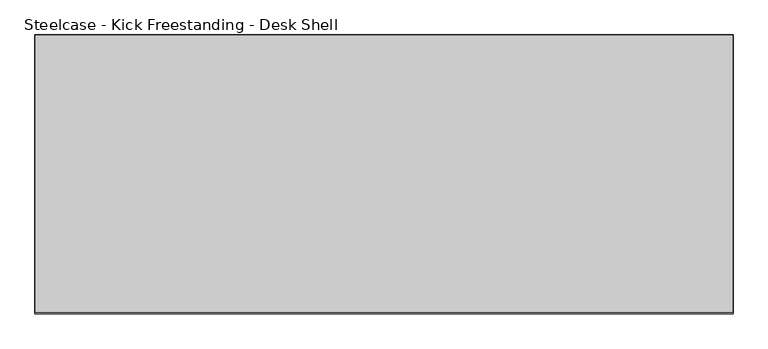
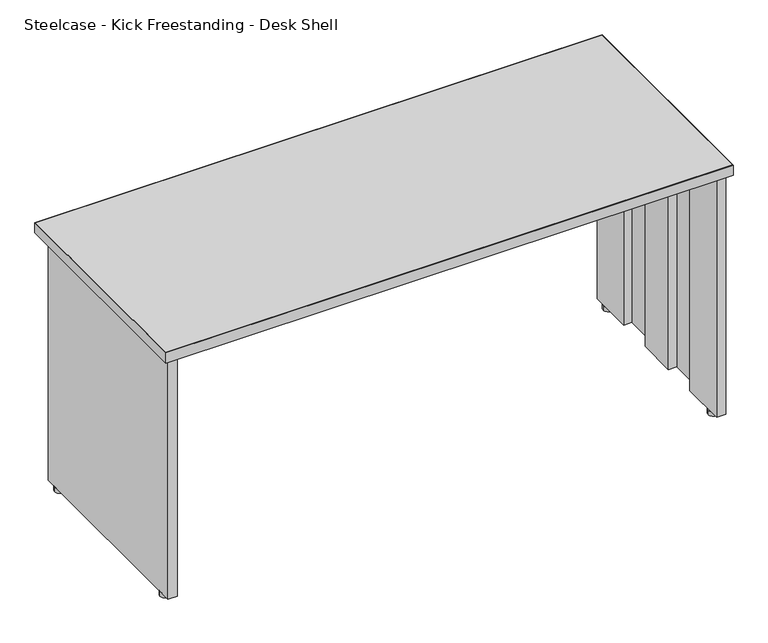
"""IFC4 building model written with IfcOpenShell, lengths in millimetres: furniture geometry, Steelcase - Kick Freestanding - Desk Shell : 24D x 60W."""

from ifc_helpers import new_model, si_unit, point, frame, frame_2d, origin, origin_with_axes, place, context, project, spatial, polyline, circle_curve, trimmed, segment, composite_curve, outline, extrude, source, transform, mapped, element, save


def steelcase_kick_freestanding_desk_shell_5ce8daeb(model_context):
    return source(origin(), model_context, "Body", "SweptSolid", [
        extrude(outline(composite_curve([segment(trimmed(circle_curve(frame_2d((665.1357759, -1004.2087877)), 13.97), [point((651.1657759, -1004.2087877))], [point((679.1057759, -1004.2087877))], False, "CARTESIAN"), True, "CONTINUOUS"), segment(trimmed(circle_curve(frame_2d((665.1357759, -1004.2087877)), 13.97), [point((679.1057759, -1004.2087877))], [point((651.1657759, -1004.2087877))], False, "CARTESIAN"), True, "CONTINUOUS")], self_intersect=False)), origin_with_axes(), (0.0, 0.0, 1.0), 12.446),
        extrude(outline(composite_curve([segment(trimmed(circle_curve(frame_2d((665.1357759, -1493.6441481)), 13.97), [point((651.1657759, -1493.6441481))], [point((679.1057759, -1493.6441481))], False, "CARTESIAN"), True, "CONTINUOUS"), segment(trimmed(circle_curve(frame_2d((665.1357759, -1493.6441481)), 13.97), [point((679.1057759, -1493.6441481))], [point((651.1657759, -1493.6441481))], False, "CARTESIAN"), True, "CONTINUOUS")], self_intersect=False)), origin_with_axes(), (0.0, 0.0, 1.0), 12.446),
        extrude(outline(polyline([(2126.6738425, -1096.0529604), (2126.6738425, -972.7867604), (2151.1594421, -972.7867604), (2151.1594421, -1528.538741), (2126.6738421, -1528.538741), (2126.6738421, -1404.2311348), (2149.1020425, -1404.2311348), (2149.1020425, -1304.5107682), (2126.6738421, -1304.5107682), (2126.6738421, -1195.7733647), (2149.1020425, -1195.7733647), (2149.1020425, -1096.0529604), (2126.6738425, -1096.0529604)])), frame((0.0, 0.0, 12.446), z_axis=(0.0, 0.0, 1.0), x_axis=(1.0, 0.0, 0.0)), (0.0, 0.0, 1.0), 682.498),
        extrude(outline(polyline([(677.0450425, -1096.0529604), (654.6168425, -1096.0529604), (654.6168425, -1195.7733647), (677.0450429, -1195.7733647), (677.0450429, -1304.5107682), (654.6168425, -1304.5107682), (654.6168425, -1404.2311348), (677.0450429, -1404.2311348), (677.0450429, -1528.538741), (652.5594429, -1528.538741), (652.5594429, -972.7867604), (677.0450425, -972.7867604), (677.0450425, -1096.0529604)])), frame((0.0, 0.0, 12.446), z_axis=(0.0, 0.0, 1.0), x_axis=(1.0, 0.0, 0.0)), (0.0, 0.0, 1.0), 682.498),
        extrude(outline(polyline([(2162.8688425, -932.6293604), (2162.8688425, -1538.2669215), (640.8500425, -1538.2669215), (640.8500425, -932.6293604), (2162.8688425, -932.6293604)])), frame((0.0, 0.0, 694.944), z_axis=(0.0, 0.0, 1.0), x_axis=(1.0, 0.0, 0.0)), (0.0, 0.0, 1.0), 28.956),
        extrude(outline(polyline([(2163.8594425, -931.6387604), (2163.8594425, -1541.2387604), (639.8594425, -1541.2387604), (639.8594425, -931.6387604), (2163.8594425, -931.6387604)]), holes=[polyline([(2162.8688425, -932.6293604), (640.8500425, -932.6293604), (640.8500425, -1538.2669215), (2162.8688425, -1538.2669215), (2162.8688425, -932.6293604)])]), frame((0.0, 0.0, 694.944), z_axis=(0.0, 0.0, 1.0), x_axis=(1.0, 0.0, 0.0)), (0.0, 0.0, 1.0), 28.956),
        extrude(outline(composite_curve([segment(trimmed(circle_curve(frame_2d((2138.5831091, -1493.6441481)), 13.97), [point((2124.6131091, -1493.6441481))], [point((2152.5531091, -1493.6441481))], False, "CARTESIAN"), True, "CONTINUOUS"), segment(trimmed(circle_curve(frame_2d((2138.5831091, -1493.6441481)), 13.97), [point((2152.5531091, -1493.6441481))], [point((2124.6131091, -1493.6441481))], False, "CARTESIAN"), True, "CONTINUOUS")], self_intersect=False)), origin_with_axes(), (0.0, 0.0, 1.0), 12.446),
        extrude(outline(composite_curve([segment(trimmed(circle_curve(frame_2d((2138.5831091, -1004.2087877)), 13.97), [point((2152.5531091, -1004.2087877))], [point((2124.6131091, -1004.2087877))], False, "CARTESIAN"), True, "CONTINUOUS"), segment(trimmed(circle_curve(frame_2d((2138.5831091, -1004.2087877)), 13.97), [point((2124.6131091, -1004.2087877))], [point((2152.5531091, -1004.2087877))], False, "CARTESIAN"), True, "CONTINUOUS")], self_intersect=False)), origin_with_axes(), (0.0, 0.0, 1.0), 12.446),
    ])


if __name__ == "__main__":
    model = new_model("IFC4")
    model_context = context("Model", 3, world=origin())
    ifc_project = project(units=[si_unit("LENGTHUNIT", "METRE", prefix="MILLI")], contexts=[model_context])
    site = spatial("IfcSite", under=ifc_project)
    building = spatial("IfcBuilding", under=site)
    placement = place(None, origin())
    steelcase_kick_freestanding_desk_shell_shape = steelcase_kick_freestanding_desk_shell_5ce8daeb(model_context)
    element("IfcFurniture", 1, ObjectType="Steelcase - Kick Freestanding - Desk Shell : 24D x 60W", at=placement, inside=building, context=model_context, shape_type="MappedRepresentation", body=[
        mapped(steelcase_kick_freestanding_desk_shell_shape, transform((0.0, 0.0, 0.0), x_axis=(1.0, 0.0, 0.0), y_axis=(0.0, 1.0, 0.0), z_axis=(0.0, 0.0, 1.0))),
    ])
    save(model, "model.ifc")
